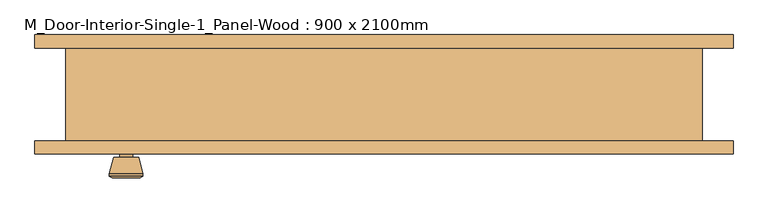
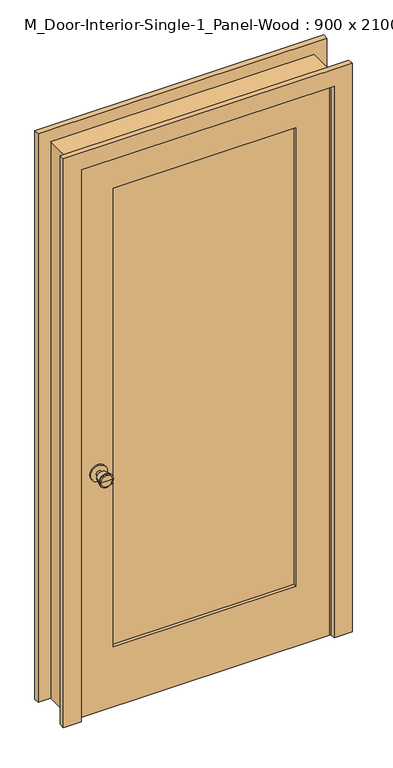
"""IFC4 building model written with IfcOpenShell, lengths in millimetres: door geometry, M_Door-Interior-Single-1_Panel-Wood : 900 x 2100mm."""

from ifc_helpers import new_model, si_unit, point, frame, frame_2d, origin, place, context, project, spatial, polyline, circle_curve, trimmed, segment, composite_curve, outline, extrude, faceted_brep, source, transform, mapped, element, save
from ifc_brep_helpers import plane_surface, cylinder_surface, revolved_surface, advanced_brep


def m_door_interior_single_1_panel_wood_900_x_2100mm_5dfd14ed(model_context):
    return source(origin(), model_context, "Body", "SolidModel", [
        advanced_brep(
        [(-385.0, -25.075, 914.4), (-395.0, -25.075, 914.4), (-375.0, -25.075, 914.4), (-364.5241324, 23.925, 914.4), (-405.4758676, 23.925, 914.4), (-385.0, 23.925, 914.4), (-360.0, 22.0971319, 914.4), (-410.0, 22.0971319, 914.4), (-360.0, 18.6334537, 914.4), (-410.0, 18.6334537, 914.4), (-366.363764, -6.075, 914.4), (-403.636236, -6.075, 914.4), (-375.0, -6.075, 914.4), (-395.0, -6.075, 914.4)],
        [
            (0, 1),
            (1, 2, circle_curve(frame((-385.0, -25.075, 914.4), z_axis=(0.0, -1.0, 0.0), x_axis=(-1.0, 0.0, 0.0)), 10.0)),
            (2, 0),
            (2, 1, circle_curve(frame((-385.0, -25.075, 914.4), z_axis=(0.0, -1.0, 0.0), x_axis=(-1.0, 0.0, 0.0)), 10.0)),
            (3, 4, circle_curve(frame((-385.0, 23.925, 914.4), z_axis=(0.0, 1.0, 0.0), x_axis=(-1.0, 0.0, 0.0)), 20.4758676)),
            (4, 5),
            (5, 3),
            (4, 3, circle_curve(frame((-385.0, 23.925, 914.4), z_axis=(0.0, 1.0, 0.0), x_axis=(-1.0, 0.0, 0.0)), 20.4758676)),
            (6, 7, circle_curve(frame((-385.0, 22.0971319, 914.4), z_axis=(0.0, 1.0, 0.0), x_axis=(-1.0, 0.0, 0.0)), 25.0)),
            (7, 4),
            (3, 6),
            (7, 6, circle_curve(frame((-385.0, 22.0971319, 914.4), z_axis=(0.0, 1.0, 0.0), x_axis=(-1.0, 0.0, 0.0)), 25.0)),
            (8, 9, circle_curve(frame((-385.0, 18.6334537, 914.4), z_axis=(0.0, 1.0, 0.0), x_axis=(-1.0, 0.0, 0.0)), 25.0)),
            (9, 7),
            (6, 8),
            (9, 8, circle_curve(frame((-385.0, 18.6334537, 914.4), z_axis=(0.0, 1.0, 0.0), x_axis=(-1.0, 0.0, 0.0)), 25.0)),
            (10, 11, circle_curve(frame((-385.0, -6.075, 914.4), z_axis=(0.0, 1.0, 0.0), x_axis=(-1.0, 0.0, 0.0)), 18.636236)),
            (11, 9),
            (8, 10),
            (11, 10, circle_curve(frame((-385.0, -6.075, 914.4), z_axis=(0.0, 1.0, 0.0), x_axis=(-1.0, 0.0, 0.0)), 18.636236)),
            (12, 13, circle_curve(frame((-385.0, -6.075, 914.4), z_axis=(0.0, 1.0, 0.0), x_axis=(-1.0, 0.0, 0.0)), 10.0)),
            (13, 11),
            (10, 12),
            (13, 12, circle_curve(frame((-385.0, -6.075, 914.4), z_axis=(0.0, 1.0, 0.0), x_axis=(-1.0, 0.0, 0.0)), 10.0)),
            (1, 13),
            (12, 2),
        ],
        [
            plane_surface(frame((-385.0, -25.075, 914.4), z_axis=(0.0, -1.0, 0.0), x_axis=(-1.0, 0.0, 0.0))),
            plane_surface(frame((-385.0, 23.925, 914.4), z_axis=(0.0, 1.0, 0.0), x_axis=(-1.0, 0.0, 0.0))),
            revolved_surface(polyline([(-405.4758676, 23.925, 914.4), (-410.0, 22.0971319, 914.4)]), (-385.0, -25.075, 914.4), (0.0, -1.0, 0.0)),
            cylinder_surface(frame((-385.0, -25.075, 914.4), z_axis=(0.0, -1.0, 0.0), x_axis=(-1.0, 0.0, 0.0)), 25.0),
            revolved_surface(polyline([(-410.0, 18.6334537, 914.4), (-403.636236, -6.075, 914.4)]), (-385.0, -25.075, 914.4), (0.0, -1.0, 0.0)),
            plane_surface(frame((-385.0, -6.075, 914.4), z_axis=(0.0, -1.0, 0.0), x_axis=(-1.0, 0.0, 0.0))),
            cylinder_surface(frame((-385.0, -25.075, 914.4), z_axis=(0.0, -1.0, 0.0), x_axis=(-1.0, 0.0, 0.0)), 10.0),
        ],
        [
            (0, [[1, 2, 3]]),
            (0, [[-3, 4, -1]]),
            (1, [[5, 6, 7]]),
            (1, [[8, -7, -6]]),
            (2, [[9, 10, -5, 11]]),
            (2, [[12, -11, -8, -10]]),
            (3, [[13, 14, -9, 15]]),
            (3, [[16, -15, -12, -14]]),
            (4, [[17, 18, -13, 19]]),
            (4, [[20, -19, -16, -18]]),
            (5, [[21, 22, -17, 23]]),
            (5, [[24, -23, -20, -22]]),
            (6, [[-2, 25, -21, 26]]),
            (6, [[-4, -26, -24, -25]]),
        ],
    ),
        extrude(outline(composite_curve([segment(trimmed(circle_curve(frame_2d((914.4, -385.0)), 30.0), [point((914.4, -415.0))], [point((914.4, -355.0))], False, "CARTESIAN"), True, "CONTINUOUS"), segment(trimmed(circle_curve(frame_2d((914.4, -385.0)), 30.0), [point((914.4, -355.0))], [point((914.4, -415.0))], False, "CARTESIAN"), True, "CONTINUOUS")], self_intersect=False)), frame((0.0, -31.075, 0.0), z_axis=(0.0, 1.0, 0.0), x_axis=(0.0, 0.0, 1.0)), (0.0, 0.0, 1.0), 6.0),
        advanced_brep(
        [(-385.0, -72.075, 914.4), (-375.0, -72.075, 914.4), (-395.0, -72.075, 914.4), (-364.5241324, -121.075, 914.4), (-385.0, -121.075, 914.4), (-405.4758676, -121.075, 914.4), (-360.0, -119.2471319, 914.4), (-410.0, -119.2471319, 914.4), (-360.0, -115.7834537, 914.4), (-410.0, -115.7834537, 914.4), (-366.363764, -91.075, 914.4), (-403.636236, -91.075, 914.4), (-375.0, -91.075, 914.4), (-395.0, -91.075, 914.4)],
        [
            (0, 1),
            (1, 2, circle_curve(frame((-385.0, -72.075, 914.4), z_axis=(0.0, 1.0, 0.0), x_axis=(-1.0, 0.0, 0.0)), 10.0)),
            (2, 0),
            (2, 1, circle_curve(frame((-385.0, -72.075, 914.4), z_axis=(0.0, 1.0, 0.0), x_axis=(-1.0, 0.0, 0.0)), 10.0)),
            (3, 4),
            (4, 5),
            (5, 3, circle_curve(frame((-385.0, -121.075, 914.4), z_axis=(0.0, -1.0, 0.0), x_axis=(-1.0, 0.0, 0.0)), 20.4758676)),
            (3, 5, circle_curve(frame((-385.0, -121.075, 914.4), z_axis=(0.0, -1.0, 0.0), x_axis=(-1.0, 0.0, 0.0)), 20.4758676)),
            (6, 3),
            (5, 7),
            (7, 6, circle_curve(frame((-385.0, -119.2471319, 914.4), z_axis=(0.0, -1.0, 0.0), x_axis=(-1.0, 0.0, 0.0)), 25.0)),
            (6, 7, circle_curve(frame((-385.0, -119.2471319, 914.4), z_axis=(0.0, -1.0, 0.0), x_axis=(-1.0, 0.0, 0.0)), 25.0)),
            (8, 6),
            (7, 9),
            (9, 8, circle_curve(frame((-385.0, -115.7834537, 914.4), z_axis=(0.0, -1.0, 0.0), x_axis=(-1.0, 0.0, 0.0)), 25.0)),
            (8, 9, circle_curve(frame((-385.0, -115.7834537, 914.4), z_axis=(0.0, -1.0, 0.0), x_axis=(-1.0, 0.0, 0.0)), 25.0)),
            (10, 8),
            (9, 11),
            (11, 10, circle_curve(frame((-385.0, -91.075, 914.4), z_axis=(0.0, -1.0, 0.0), x_axis=(-1.0, 0.0, 0.0)), 18.636236)),
            (10, 11, circle_curve(frame((-385.0, -91.075, 914.4), z_axis=(0.0, -1.0, 0.0), x_axis=(-1.0, 0.0, 0.0)), 18.636236)),
            (12, 10),
            (11, 13),
            (13, 12, circle_curve(frame((-385.0, -91.075, 914.4), z_axis=(0.0, -1.0, 0.0), x_axis=(-1.0, 0.0, 0.0)), 10.0)),
            (12, 13, circle_curve(frame((-385.0, -91.075, 914.4), z_axis=(0.0, -1.0, 0.0), x_axis=(-1.0, 0.0, 0.0)), 10.0)),
            (1, 12),
            (13, 2),
        ],
        [
            plane_surface(frame((-385.0, -72.075, 914.4), z_axis=(0.0, 1.0, 0.0), x_axis=(-1.0, 0.0, 0.0))),
            plane_surface(frame((-385.0, -121.075, 914.4), z_axis=(0.0, -1.0, 0.0), x_axis=(-1.0, 0.0, 0.0))),
            revolved_surface(polyline([(-405.4758676, -121.075, 914.4), (-410.0, -119.2471319, 914.4)]), (-385.0, -72.075, 914.4), (0.0, 1.0, 0.0)),
            cylinder_surface(frame((-385.0, -72.075, 914.4), z_axis=(0.0, 1.0, 0.0), x_axis=(-1.0, 0.0, 0.0)), 25.0),
            revolved_surface(polyline([(-410.0, -115.7834537, 914.4), (-403.636236, -91.075, 914.4)]), (-385.0, -72.075, 914.4), (0.0, 1.0, 0.0)),
            plane_surface(frame((-385.0, -91.075, 914.4), z_axis=(0.0, 1.0, 0.0), x_axis=(-1.0, 0.0, 0.0))),
            cylinder_surface(frame((-385.0, -72.075, 914.4), z_axis=(0.0, 1.0, 0.0), x_axis=(-1.0, 0.0, 0.0)), 10.0),
        ],
        [
            (0, [[1, 2, 3]]),
            (0, [[-3, 4, -1]]),
            (1, [[5, 6, 7]]),
            (1, [[-6, -5, 8]]),
            (2, [[9, -7, 10, 11]]),
            (2, [[-10, -8, -9, 12]]),
            (3, [[13, -11, 14, 15]]),
            (3, [[-14, -12, -13, 16]]),
            (4, [[17, -15, 18, 19]]),
            (4, [[-18, -16, -17, 20]]),
            (5, [[21, -19, 22, 23]]),
            (5, [[-22, -20, -21, 24]]),
            (6, [[25, -23, 26, -2]]),
            (6, [[-26, -24, -25, -4]]),
        ],
    ),
        extrude(outline(composite_curve([segment(trimmed(circle_curve(frame_2d((914.4, -385.0)), 30.0), [point((914.4, -415.0))], [point((914.4, -355.0))], False, "CARTESIAN"), True, "CONTINUOUS"), segment(trimmed(circle_curve(frame_2d((914.4, -385.0)), 30.0), [point((914.4, -355.0))], [point((914.4, -415.0))], False, "CARTESIAN"), True, "CONTINUOUS")], self_intersect=False)), frame((0.0, -72.075, 0.0), z_axis=(0.0, 1.0, 0.0), x_axis=(0.0, 0.0, 1.0)), (0.0, 0.0, 1.0), 6.0),
        extrude(outline(polyline([(330.0, -42.7416667), (330.0, -54.4083333), (-330.0, -54.4083333), (-330.0, -42.7416667), (330.0, -42.7416667)])), frame((0.0, 0.0, 230.0), z_axis=(0.0, 0.0, 1.0), x_axis=(1.0, 0.0, 0.0)), (0.0, 0.0, 1.0), 1750.0),
        extrude(outline(polyline([(2100.0, -450.0), (0.0, -450.0), (0.0, 450.0), (2100.0, 450.0), (2100.0, -450.0)]), holes=[polyline([(1980.0, -330.0), (1980.0, 330.0), (230.0, 330.0), (230.0, -330.0), (1980.0, -330.0)])]), frame((0.0, -66.075, 0.0), z_axis=(0.0, 1.0, 0.0), x_axis=(0.0, 0.0, 1.0)), (0.0, 0.0, 1.0), 35.0),
        faceted_brep([(475.0, -66.075, 0.0), (450.0, -66.075, 0.0), (450.0, -31.075, 0.0), (437.3, -31.075, 0.0), (437.3, 3.85, 0.0), (450.0, 3.85, 0.0), (450.0, 72.425, 0.0), (475.0, 72.425, 0.0), (475.0, 72.425, 2125.0), (475.0, -66.075, 2125.0), (450.0, 72.425, 2100.0), (-450.0, 72.425, 2100.0), (-450.0, 72.425, 0.0), (-475.0, 72.425, 0.0), (-475.0, 72.425, 2125.0), (450.0, 3.85, 2100.0), (437.3, 3.85, 2087.3), (-437.3, 3.85, 2087.3), (-437.3, 3.85, 0.0), (-450.0, 3.85, 0.0), (-450.0, 3.85, 2100.0), (437.3, -31.075, 2087.3), (450.0, -31.075, 2100.0), (-450.0, -31.075, 2100.0), (-450.0, -31.075, 0.0), (-437.3, -31.075, 0.0), (-437.3, -31.075, 2087.3), (450.0, -66.075, 2100.0), (-475.0, -66.075, 2125.0), (-475.0, -66.075, 0.0), (-450.0, -66.075, 0.0), (-450.0, -66.075, 2100.0)], [[[0, 1, 2, 3, 4, 5, 6, 7]], [[7, 8, 9, 0]], [[6, 10, 11, 12, 13, 14, 8, 7]], [[5, 15, 10, 6]], [[4, 16, 17, 18, 19, 20, 15, 5]], [[3, 21, 16, 4]], [[2, 22, 23, 24, 25, 26, 21, 3]], [[1, 27, 22, 2]], [[0, 9, 28, 29, 30, 31, 27, 1]], [[8, 14, 28, 9]], [[15, 20, 11, 10]], [[21, 26, 17, 16]], [[27, 31, 23, 22]], [[29, 13, 12, 19, 18, 25, 24, 30]], [[14, 13, 29, 28]], [[20, 19, 12, 11]], [[26, 25, 18, 17]], [[31, 30, 24, 23]]]),
        extrude(outline(polyline([(0.0, 521.35), (2171.35, 521.35), (2171.35, -521.35), (0.0, -521.35), (0.0, -456.35), (2106.35, -456.35), (2106.35, 456.35), (0.0, 456.35), (0.0, 521.35)])), frame((0.0, 72.425, 0.0), z_axis=(0.0, 1.0, 0.0), x_axis=(0.0, 0.0, 1.0)), (0.0, 0.0, 1.0), 20.0),
        extrude(outline(polyline([(0.0, 521.35), (2171.35, 521.35), (2171.35, -521.35), (0.0, -521.35), (0.0, -456.35), (2106.35, -456.35), (2106.35, 456.35), (0.0, 456.35), (0.0, 521.35)])), frame((0.0, -86.075, 0.0), z_axis=(0.0, 1.0, 0.0), x_axis=(0.0, 0.0, 1.0)), (0.0, 0.0, 1.0), 20.0),
    ])


if __name__ == "__main__":
    model = new_model("IFC4")
    model_context = context("Model", 3, world=origin())
    ifc_project = project(units=[si_unit("LENGTHUNIT", "METRE", prefix="MILLI")], contexts=[model_context])
    site = spatial("IfcSite", under=ifc_project)
    building = spatial("IfcBuilding", under=site)
    placement = place(None, origin())
    m_door_interior_single_1_panel_wood_900_x_2100mm_shape = m_door_interior_single_1_panel_wood_900_x_2100mm_5dfd14ed(model_context)
    element("IfcDoor", 1, ObjectType="M_Door-Interior-Single-1_Panel-Wood : 900 x 2100mm", at=placement, inside=building, context=model_context, shape_type="MappedRepresentation", body=[
        mapped(m_door_interior_single_1_panel_wood_900_x_2100mm_shape, transform((0.0, 0.0, 0.0), x_axis=(1.0, 0.0, 0.0), y_axis=(0.0, 1.0, 0.0), z_axis=(0.0, 0.0, 1.0))),
    ])
    save(model, "model.ifc")
